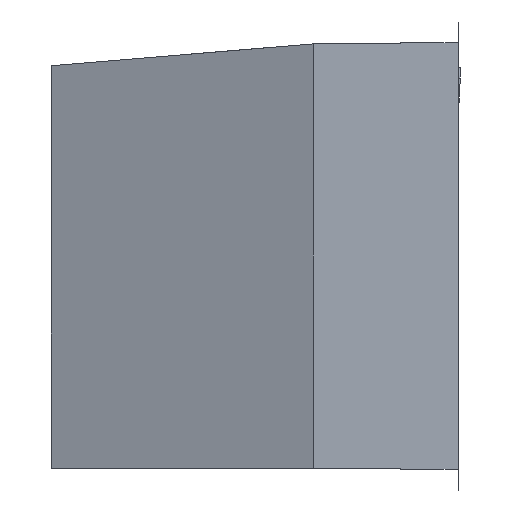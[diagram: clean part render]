
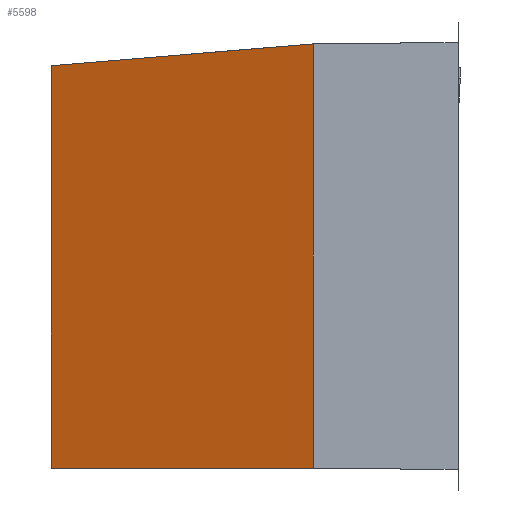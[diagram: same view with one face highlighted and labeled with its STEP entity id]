
A CAD part, left-side view. The second image highlights one B-rep face of the part: STEP entity #5598.
In plain terms, the highlighted planar face has unit normal (-0.94, 0.342, 0).
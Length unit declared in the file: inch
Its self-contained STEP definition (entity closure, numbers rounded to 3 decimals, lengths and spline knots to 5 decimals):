
#423=DIRECTION('',(-0.342,-0.94,0.));
#424=VECTOR('',#423,9.57772);
#425=CARTESIAN_POINT('',(-13.91141,14.,0.));
#426=LINE('',#425,#424);
#451=DIRECTION('',(0.,0.,1.));
#452=VECTOR('',#451,13.815);
#453=CARTESIAN_POINT('',(-13.91141,14.,0.));
#454=LINE('',#453,#452);
#549=DIRECTION('',(-0.341,-0.937,0.078));
#550=VECTOR('',#549,9.60704);
#551=CARTESIAN_POINT('',(-13.91141,14.,13.815));
#552=LINE('',#551,#550);
#612=DIRECTION('',(0.,0.,-1.));
#613=VECTOR('',#612,14.565);
#614=CARTESIAN_POINT('',(-17.1875,5.,14.565));
#615=LINE('',#614,#613);
#4614=CARTESIAN_POINT('',(-13.91141,14.,0.));
#4615=CARTESIAN_POINT('',(-17.1875,5.,0.));
#4616=VERTEX_POINT('',#4614);
#4617=VERTEX_POINT('',#4615);
#4618=CARTESIAN_POINT('',(-13.91141,14.,13.815));
#4619=VERTEX_POINT('',#4618);
#4620=CARTESIAN_POINT('',(-17.1875,5.,14.565));
#4621=VERTEX_POINT('',#4620);
#5587=CARTESIAN_POINT('',(-13.91141,14.,0.));
#5588=DIRECTION('',(-0.94,0.342,0.));
#5589=DIRECTION('',(-0.342,-0.94,0.));
#5590=AXIS2_PLACEMENT_3D('',#5587,#5588,#5589);
#5591=PLANE('',#5590);
#5592=ORIENTED_EDGE('',*,*,#5420,.F.);
#5593=ORIENTED_EDGE('',*,*,#5440,.T.);
#5594=ORIENTED_EDGE('',*,*,#5523,.T.);
#5595=ORIENTED_EDGE('',*,*,#5579,.T.);
#5596=EDGE_LOOP('',(#5592,#5593,#5594,#5595));
#5597=FACE_OUTER_BOUND('',#5596,.F.);
#5598=ADVANCED_FACE('',(#5597),#5591,.T.);
#5420=EDGE_CURVE('',#4616,#4617,#426,.T.);
#5440=EDGE_CURVE('',#4616,#4619,#454,.T.);
#5523=EDGE_CURVE('',#4619,#4621,#552,.T.);
#5579=EDGE_CURVE('',#4621,#4617,#615,.T.);
